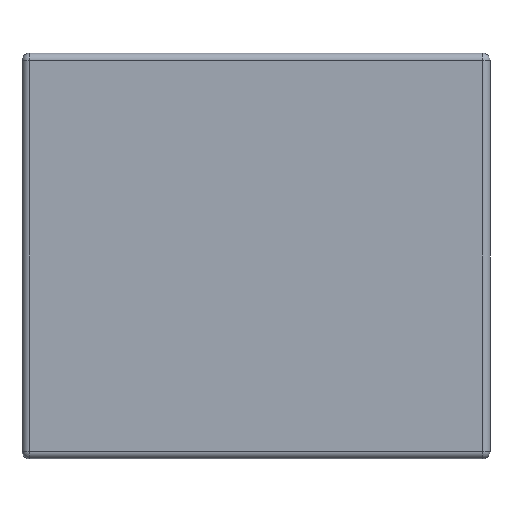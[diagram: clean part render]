
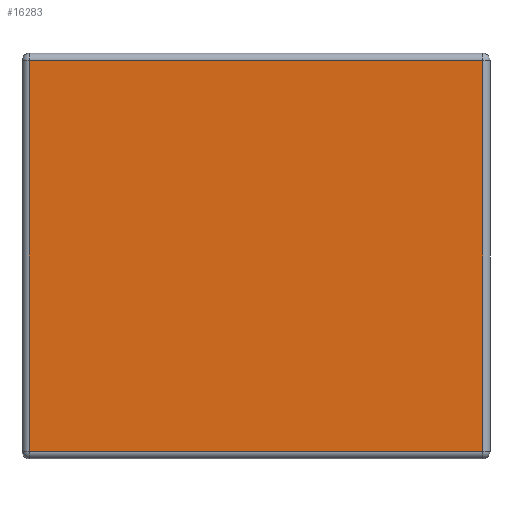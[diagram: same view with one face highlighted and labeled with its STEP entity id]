
A CAD part, front view. The second image highlights one B-rep face of the part: STEP entity #16283.
In plain terms, the highlighted planar face has unit normal (0, -1, 0).
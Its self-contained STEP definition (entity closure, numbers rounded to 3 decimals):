
#36 = VECTOR ( 'NONE', #13954, 1000. ) ;
#440 = ORIENTED_EDGE ( 'NONE', *, *, #3926, .T. ) ;
#1046 = VERTEX_POINT ( 'NONE', #14059 ) ;
#1158 = DIRECTION ( 'NONE',  ( 0., 0., 1. ) ) ;
#1510 = CARTESIAN_POINT ( 'NONE',  ( 72.6, 0., 65. ) ) ;
#3523 = LINE ( 'NONE', #8787, #36 ) ;
#3875 = VECTOR ( 'NONE', #14974, 1000. ) ;
#3926 = EDGE_CURVE ( 'NONE', #11712, #16745, #3523, .T. ) ;
#4125 = LINE ( 'NONE', #1510, #10267 ) ;
#4410 = CARTESIAN_POINT ( 'NONE',  ( -75., 0., 62.6 ) ) ;
#4851 = EDGE_CURVE ( 'NONE', #1046, #16491, #4125, .T. ) ;
#6319 = CARTESIAN_POINT ( 'NONE',  ( -72.6, 0., -62.6 ) ) ;
#7305 = CARTESIAN_POINT ( 'NONE',  ( 0., 0., -62.6 ) ) ;
#8368 = DIRECTION ( 'NONE',  ( -1., 0., 0. ) ) ;
#8787 = CARTESIAN_POINT ( 'NONE',  ( -72.6, 0., 0. ) ) ;
#9053 = DIRECTION ( 'NONE',  ( 0., -1., 0. ) ) ;
#9801 = CARTESIAN_POINT ( 'NONE',  ( 72.6, 0., 62.6 ) ) ;
#9816 = LINE ( 'NONE', #7305, #3875 ) ;
#9969 = CARTESIAN_POINT ( 'NONE',  ( -72.6, 0., 62.6 ) ) ;
#9996 = LINE ( 'NONE', #4410, #12852 ) ;
#10267 = VECTOR ( 'NONE', #1158, 1000. ) ;
#10783 = AXIS2_PLACEMENT_3D ( 'NONE', #11683, #9053, #12935 ) ;
#11683 = CARTESIAN_POINT ( 'NONE',  ( 0., 0., 0. ) ) ;
#11712 = VERTEX_POINT ( 'NONE', #9969 ) ;
#12003 = FACE_OUTER_BOUND ( 'NONE', #16406, .T. ) ;
#12852 = VECTOR ( 'NONE', #8368, 1000. ) ;
#12935 = DIRECTION ( 'NONE',  ( 0., 0., -1. ) ) ;
#13954 = DIRECTION ( 'NONE',  ( 0., 0., -1. ) ) ;
#13960 = EDGE_CURVE ( 'NONE', #16491, #11712, #9996, .T. ) ;
#14059 = CARTESIAN_POINT ( 'NONE',  ( 72.6, 0., -62.6 ) ) ;
#14301 = EDGE_CURVE ( 'NONE', #16745, #1046, #9816, .T. ) ;
#14394 = PLANE ( 'NONE',  #10783 ) ;
#14974 = DIRECTION ( 'NONE',  ( 1., 0., 0. ) ) ;
#15526 = ORIENTED_EDGE ( 'NONE', *, *, #14301, .T. ) ;
#15741 = ORIENTED_EDGE ( 'NONE', *, *, #4851, .T. ) ;
#16283 = ADVANCED_FACE ( 'NONE', ( #12003 ), #14394, .T. ) ;
#16406 = EDGE_LOOP ( 'NONE', ( #15526, #15741, #16412, #440 ) ) ;
#16412 = ORIENTED_EDGE ( 'NONE', *, *, #13960, .T. ) ;
#16491 = VERTEX_POINT ( 'NONE', #9801 ) ;
#16745 = VERTEX_POINT ( 'NONE', #6319 ) ;
